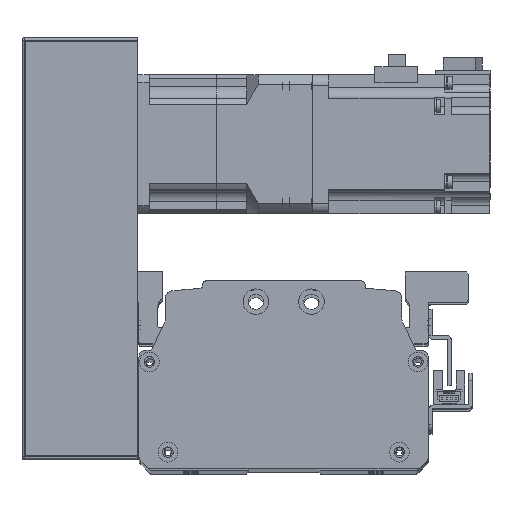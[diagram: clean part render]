
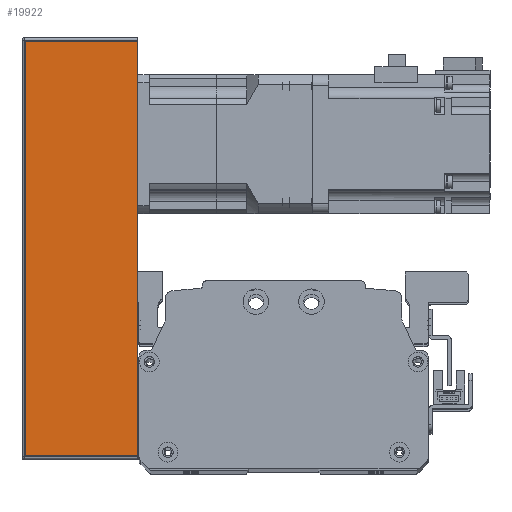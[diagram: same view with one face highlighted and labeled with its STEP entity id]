
A CAD part, top view. The second image highlights one B-rep face of the part: STEP entity #19922.
In plain terms, the highlighted planar face has unit normal (0, 0, 1) as drawn and (0, -1, 0) by its records, which use the part's own axes.
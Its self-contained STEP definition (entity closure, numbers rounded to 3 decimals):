
#604=PLANE('',#21894);
#1823=LINE('',#32880,#3447);
#1832=LINE('',#32919,#3456);
#1835=LINE('',#32929,#3459);
#1836=LINE('',#32931,#3460);
#3447=VECTOR('',#26586,10.);
#3456=VECTOR('',#26635,10.);
#3459=VECTOR('',#26652,10.);
#3460=VECTOR('',#26655,10.);
#5836=FACE_OUTER_BOUND('',#7296,.T.);
#7296=EDGE_LOOP('',(#17149,#17150,#17151,#17152));
#10183=VERTEX_POINT('',#32877);
#10184=VERTEX_POINT('',#32879);
#10193=VERTEX_POINT('',#32916);
#10194=VERTEX_POINT('',#32918);
#12635=EDGE_CURVE('',#10183,#10184,#1823,.T.);
#12655=EDGE_CURVE('',#10193,#10194,#1832,.T.);
#12661=EDGE_CURVE('',#10194,#10183,#1835,.T.);
#12662=EDGE_CURVE('',#10184,#10193,#1836,.T.);
#17149=ORIENTED_EDGE('',*,*,#12655,.F.);
#17150=ORIENTED_EDGE('',*,*,#12662,.F.);
#17151=ORIENTED_EDGE('',*,*,#12635,.F.);
#17152=ORIENTED_EDGE('',*,*,#12661,.F.);
#19922=ADVANCED_FACE('',(#5836),#604,.T.);
#21894=AXIS2_PLACEMENT_3D('',#32930,#26653,#26654);
#26586=DIRECTION('',(1.,0.,0.));
#26635=DIRECTION('',(-1.,0.,0.));
#26652=DIRECTION('',(0.,0.,1.));
#26653=DIRECTION('center_axis',(0.,-1.,0.));
#26654=DIRECTION('ref_axis',(1.,0.,0.));
#26655=DIRECTION('',(0.,0.,-1.));
#32877=CARTESIAN_POINT('',(-90.,-38.,25.));
#32879=CARTESIAN_POINT('',(90.,-38.,25.));
#32880=CARTESIAN_POINT('',(91.,-38.,25.));
#32916=CARTESIAN_POINT('',(90.,-38.,-24.));
#32918=CARTESIAN_POINT('',(-90.,-38.,-24.));
#32919=CARTESIAN_POINT('',(-45.5,-38.,-24.));
#32929=CARTESIAN_POINT('',(-90.,-38.,0.));
#32930=CARTESIAN_POINT('Origin',(-91.,-38.,0.));
#32931=CARTESIAN_POINT('',(90.,-38.,0.));
